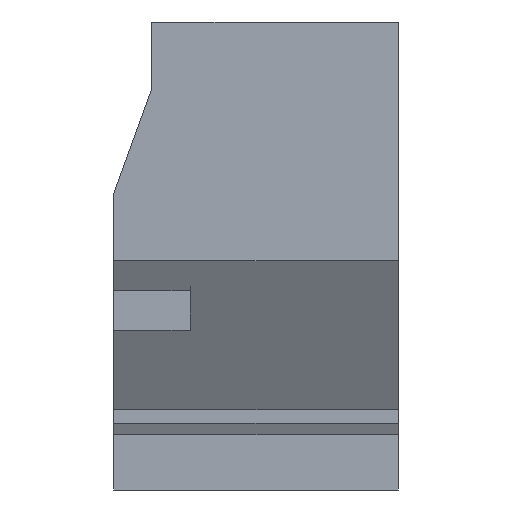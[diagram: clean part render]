
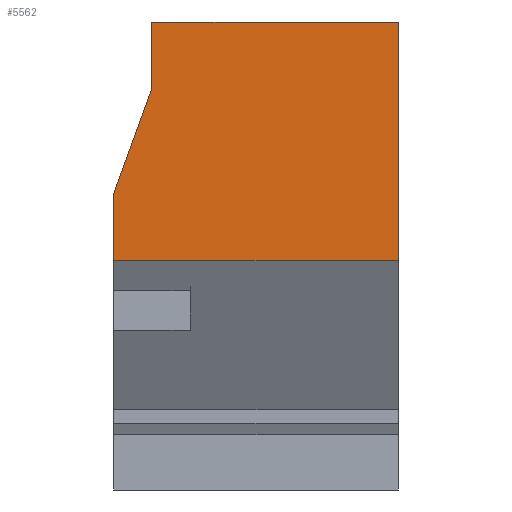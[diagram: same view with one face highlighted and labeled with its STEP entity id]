
A CAD part, front view. The second image highlights one B-rep face of the part: STEP entity #5562.
In plain terms, the highlighted planar face has unit normal (0, -1, 0).
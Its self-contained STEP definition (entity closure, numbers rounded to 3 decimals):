
#32 = PLANE('',#33);
#33 = AXIS2_PLACEMENT_3D('',#34,#35,#36);
#34 = CARTESIAN_POINT('',(15.,-190.,-0.1));
#35 = DIRECTION('',(1.,0.,-0.));
#36 = DIRECTION('',(0.,0.,1.));
#107 = VERTEX_POINT('',#108);
#108 = CARTESIAN_POINT('',(15.,-180.5,24.5));
#121 = PLANE('',#122);
#122 = AXIS2_PLACEMENT_3D('',#123,#124,#125);
#123 = CARTESIAN_POINT('',(0.,-3.198,24.5));
#124 = DIRECTION('',(0.,0.,1.));
#125 = DIRECTION('',(1.,0.,-0.));
#132 = EDGE_CURVE('',#133,#107,#135,.T.);
#133 = VERTEX_POINT('',#134);
#134 = CARTESIAN_POINT('',(15.,-180.5,12.));
#135 = SURFACE_CURVE('',#136,(#140,#146),.PCURVE_S1.);
#136 = LINE('',#137,#138);
#137 = CARTESIAN_POINT('',(15.,-180.5,5.95));
#138 = VECTOR('',#139,1.);
#139 = DIRECTION('',(0.,-0.,1.));
#140 = PCURVE('',#32,#141);
#141 = DEFINITIONAL_REPRESENTATION('',(#142),#145);
#142 = B_SPLINE_CURVE_WITH_KNOTS('',1,(#143,#144),.UNSPECIFIED.,.F.,.F.,
  (2,2),(6.05,18.55),.PIECEWISE_BEZIER_KNOTS.);
#143 = CARTESIAN_POINT('',(12.1,-9.5));
#144 = CARTESIAN_POINT('',(24.6,-9.5));
#145 = ( GEOMETRIC_REPRESENTATION_CONTEXT(2) 
PARAMETRIC_REPRESENTATION_CONTEXT() REPRESENTATION_CONTEXT('2D SPACE',''
  ) );
#146 = PCURVE('',#147,#152);
#147 = PLANE('',#148);
#148 = AXIS2_PLACEMENT_3D('',#149,#150,#151);
#149 = CARTESIAN_POINT('',(-196.5,-180.5,12.));
#150 = DIRECTION('',(0.,1.,0.));
#151 = DIRECTION('',(1.,0.,0.));
#152 = DEFINITIONAL_REPRESENTATION('',(#153),#156);
#153 = B_SPLINE_CURVE_WITH_KNOTS('',1,(#154,#155),.UNSPECIFIED.,.F.,.F.,
  (2,2),(6.05,18.55),.PIECEWISE_BEZIER_KNOTS.);
#154 = CARTESIAN_POINT('',(211.5,0.));
#155 = CARTESIAN_POINT('',(211.5,-12.5));
#156 = ( GEOMETRIC_REPRESENTATION_CONTEXT(2) 
PARAMETRIC_REPRESENTATION_CONTEXT() REPRESENTATION_CONTEXT('2D SPACE',''
  ) );
#184 = B_SPLINE_SURFACE_WITH_KNOTS('',1,1,(
    (#185,#186)
    ,(#187,#188
    )),.UNSPECIFIED.,.F.,.F.,.F.,(2,2),(2,2),(0.,393.),(0.,1.),
  .PIECEWISE_BEZIER_KNOTS.);
#185 = CARTESIAN_POINT('',(-192.,-176.,4.2));
#186 = CARTESIAN_POINT('',(-196.5,-180.5,12.));
#187 = CARTESIAN_POINT('',(192.,-176.,4.2));
#188 = CARTESIAN_POINT('',(196.5,-180.5,12.));
#5424 = EDGE_CURVE('',#5425,#133,#5427,.T.);
#5425 = VERTEX_POINT('',#5426);
#5426 = CARTESIAN_POINT('',(0.1,-180.5,12.));
#5427 = SURFACE_CURVE('',#5428,(#5432,#5439),.PCURVE_S1.);
#5428 = LINE('',#5429,#5430);
#5429 = CARTESIAN_POINT('',(-196.5,-180.5,12.));
#5430 = VECTOR('',#5431,1.);
#5431 = DIRECTION('',(1.,0.,0.));
#5432 = PCURVE('',#184,#5433);
#5433 = DEFINITIONAL_REPRESENTATION('',(#5434),#5438);
#5434 = LINE('',#5435,#5436);
#5435 = CARTESIAN_POINT('',(0.,1.));
#5436 = VECTOR('',#5437,1.);
#5437 = DIRECTION('',(1.,0.));
#5438 = ( GEOMETRIC_REPRESENTATION_CONTEXT(2) 
PARAMETRIC_REPRESENTATION_CONTEXT() REPRESENTATION_CONTEXT('2D SPACE',''
  ) );
#5439 = PCURVE('',#147,#5440);
#5440 = DEFINITIONAL_REPRESENTATION('',(#5441),#5445);
#5441 = LINE('',#5442,#5443);
#5442 = CARTESIAN_POINT('',(0.,0.));
#5443 = VECTOR('',#5444,1.);
#5444 = DIRECTION('',(1.,0.));
#5445 = ( GEOMETRIC_REPRESENTATION_CONTEXT(2) 
PARAMETRIC_REPRESENTATION_CONTEXT() REPRESENTATION_CONTEXT('2D SPACE',''
  ) );
#5467 = PLANE('',#5468);
#5468 = AXIS2_PLACEMENT_3D('',#5469,#5470,#5471);
#5469 = CARTESIAN_POINT('',(0.1,-179.6,8.));
#5470 = DIRECTION('',(-1.,0.,0.));
#5471 = DIRECTION('',(0.,-1.,0.));
#5562 = ADVANCED_FACE('',(#5563),#147,.F.);
#5563 = FACE_BOUND('',#5564,.F.);
#5564 = EDGE_LOOP('',(#5565,#5593,#5619,#5640,#5641,#5642));
#5565 = ORIENTED_EDGE('',*,*,#5566,.T.);
#5566 = EDGE_CURVE('',#5567,#5569,#5571,.T.);
#5567 = VERTEX_POINT('',#5568);
#5568 = CARTESIAN_POINT('',(0.1,-180.5,15.5));
#5569 = VERTEX_POINT('',#5570);
#5570 = CARTESIAN_POINT('',(2.1,-180.5,21.));
#5571 = SURFACE_CURVE('',#5572,(#5576,#5582),.PCURVE_S1.);
#5572 = LINE('',#5573,#5574);
#5573 = CARTESIAN_POINT('',(-10.942,-180.5,-14.866));
#5574 = VECTOR('',#5575,1.);
#5575 = DIRECTION('',(0.342,-0.,0.94));
#5576 = PCURVE('',#147,#5577);
#5577 = DEFINITIONAL_REPRESENTATION('',(#5578),#5581);
#5578 = B_SPLINE_CURVE_WITH_KNOTS('',1,(#5579,#5580),.UNSPECIFIED.,.F.,
  .F.,(2,2),(32.312,38.164),.PIECEWISE_BEZIER_KNOTS.);
#5579 = CARTESIAN_POINT('',(196.6,-3.5));
#5580 = CARTESIAN_POINT('',(198.6,-9.));
#5581 = ( GEOMETRIC_REPRESENTATION_CONTEXT(2) 
PARAMETRIC_REPRESENTATION_CONTEXT() REPRESENTATION_CONTEXT('2D SPACE',''
  ) );
#5582 = PCURVE('',#5583,#5588);
#5583 = PLANE('',#5584);
#5584 = AXIS2_PLACEMENT_3D('',#5585,#5586,#5587);
#5585 = CARTESIAN_POINT('',(2.1,-179.6,21.));
#5586 = DIRECTION('',(-0.94,0.,0.342));
#5587 = DIRECTION('',(0.,-1.,0.));
#5588 = DEFINITIONAL_REPRESENTATION('',(#5589),#5592);
#5589 = B_SPLINE_CURVE_WITH_KNOTS('',1,(#5590,#5591),.UNSPECIFIED.,.F.,
  .F.,(2,2),(32.312,38.164),.PIECEWISE_BEZIER_KNOTS.);
#5590 = CARTESIAN_POINT('',(0.9,-5.852));
#5591 = CARTESIAN_POINT('',(0.9,0.));
#5592 = ( GEOMETRIC_REPRESENTATION_CONTEXT(2) 
PARAMETRIC_REPRESENTATION_CONTEXT() REPRESENTATION_CONTEXT('2D SPACE',''
  ) );
#5593 = ORIENTED_EDGE('',*,*,#5594,.T.);
#5594 = EDGE_CURVE('',#5569,#5595,#5597,.T.);
#5595 = VERTEX_POINT('',#5596);
#5596 = CARTESIAN_POINT('',(2.1,-180.5,24.5));
#5597 = SURFACE_CURVE('',#5598,(#5602,#5608),.PCURVE_S1.);
#5598 = LINE('',#5599,#5600);
#5599 = CARTESIAN_POINT('',(2.1,-180.5,25.));
#5600 = VECTOR('',#5601,1.);
#5601 = DIRECTION('',(0.,-0.,1.));
#5602 = PCURVE('',#147,#5603);
#5603 = DEFINITIONAL_REPRESENTATION('',(#5604),#5607);
#5604 = B_SPLINE_CURVE_WITH_KNOTS('',1,(#5605,#5606),.UNSPECIFIED.,.F.,
  .F.,(2,2),(-4.,-0.5),.PIECEWISE_BEZIER_KNOTS.);
#5605 = CARTESIAN_POINT('',(198.6,-9.));
#5606 = CARTESIAN_POINT('',(198.6,-12.5));
#5607 = ( GEOMETRIC_REPRESENTATION_CONTEXT(2) 
PARAMETRIC_REPRESENTATION_CONTEXT() REPRESENTATION_CONTEXT('2D SPACE',''
  ) );
#5608 = PCURVE('',#5609,#5614);
#5609 = PLANE('',#5610);
#5610 = AXIS2_PLACEMENT_3D('',#5611,#5612,#5613);
#5611 = CARTESIAN_POINT('',(2.1,-179.6,38.));
#5612 = DIRECTION('',(-1.,0.,0.));
#5613 = DIRECTION('',(0.,-1.,0.));
#5614 = DEFINITIONAL_REPRESENTATION('',(#5615),#5618);
#5615 = B_SPLINE_CURVE_WITH_KNOTS('',1,(#5616,#5617),.UNSPECIFIED.,.F.,
  .F.,(2,2),(-4.,-0.5),.PIECEWISE_BEZIER_KNOTS.);
#5616 = CARTESIAN_POINT('',(0.9,-17.));
#5617 = CARTESIAN_POINT('',(0.9,-13.5));
#5618 = ( GEOMETRIC_REPRESENTATION_CONTEXT(2) 
PARAMETRIC_REPRESENTATION_CONTEXT() REPRESENTATION_CONTEXT('2D SPACE',''
  ) );
#5619 = ORIENTED_EDGE('',*,*,#5620,.T.);
#5620 = EDGE_CURVE('',#5595,#107,#5621,.T.);
#5621 = SURFACE_CURVE('',#5622,(#5626,#5633),.PCURVE_S1.);
#5622 = LINE('',#5623,#5624);
#5623 = CARTESIAN_POINT('',(-196.5,-180.5,24.5));
#5624 = VECTOR('',#5625,1.);
#5625 = DIRECTION('',(1.,0.,0.));
#5626 = PCURVE('',#147,#5627);
#5627 = DEFINITIONAL_REPRESENTATION('',(#5628),#5632);
#5628 = LINE('',#5629,#5630);
#5629 = CARTESIAN_POINT('',(0.,-12.5));
#5630 = VECTOR('',#5631,1.);
#5631 = DIRECTION('',(1.,0.));
#5632 = ( GEOMETRIC_REPRESENTATION_CONTEXT(2) 
PARAMETRIC_REPRESENTATION_CONTEXT() REPRESENTATION_CONTEXT('2D SPACE',''
  ) );
#5633 = PCURVE('',#121,#5634);
#5634 = DEFINITIONAL_REPRESENTATION('',(#5635),#5639);
#5635 = LINE('',#5636,#5637);
#5636 = CARTESIAN_POINT('',(-196.5,-177.302));
#5637 = VECTOR('',#5638,1.);
#5638 = DIRECTION('',(1.,0.));
#5639 = ( GEOMETRIC_REPRESENTATION_CONTEXT(2) 
PARAMETRIC_REPRESENTATION_CONTEXT() REPRESENTATION_CONTEXT('2D SPACE',''
  ) );
#5640 = ORIENTED_EDGE('',*,*,#132,.F.);
#5641 = ORIENTED_EDGE('',*,*,#5424,.F.);
#5642 = ORIENTED_EDGE('',*,*,#5643,.T.);
#5643 = EDGE_CURVE('',#5425,#5567,#5644,.T.);
#5644 = SURFACE_CURVE('',#5645,(#5649,#5655),.PCURVE_S1.);
#5645 = LINE('',#5646,#5647);
#5646 = CARTESIAN_POINT('',(0.1,-180.5,10.));
#5647 = VECTOR('',#5648,1.);
#5648 = DIRECTION('',(0.,-0.,1.));
#5649 = PCURVE('',#147,#5650);
#5650 = DEFINITIONAL_REPRESENTATION('',(#5651),#5654);
#5651 = B_SPLINE_CURVE_WITH_KNOTS('',1,(#5652,#5653),.UNSPECIFIED.,.F.,
  .F.,(2,2),(2.,5.5),.PIECEWISE_BEZIER_KNOTS.);
#5652 = CARTESIAN_POINT('',(196.6,0.));
#5653 = CARTESIAN_POINT('',(196.6,-3.5));
#5654 = ( GEOMETRIC_REPRESENTATION_CONTEXT(2) 
PARAMETRIC_REPRESENTATION_CONTEXT() REPRESENTATION_CONTEXT('2D SPACE',''
  ) );
#5655 = PCURVE('',#5467,#5656);
#5656 = DEFINITIONAL_REPRESENTATION('',(#5657),#5660);
#5657 = B_SPLINE_CURVE_WITH_KNOTS('',1,(#5658,#5659),.UNSPECIFIED.,.F.,
  .F.,(2,2),(2.,5.5),.PIECEWISE_BEZIER_KNOTS.);
#5658 = CARTESIAN_POINT('',(0.9,4.));
#5659 = CARTESIAN_POINT('',(0.9,7.5));
#5660 = ( GEOMETRIC_REPRESENTATION_CONTEXT(2) 
PARAMETRIC_REPRESENTATION_CONTEXT() REPRESENTATION_CONTEXT('2D SPACE',''
  ) );
